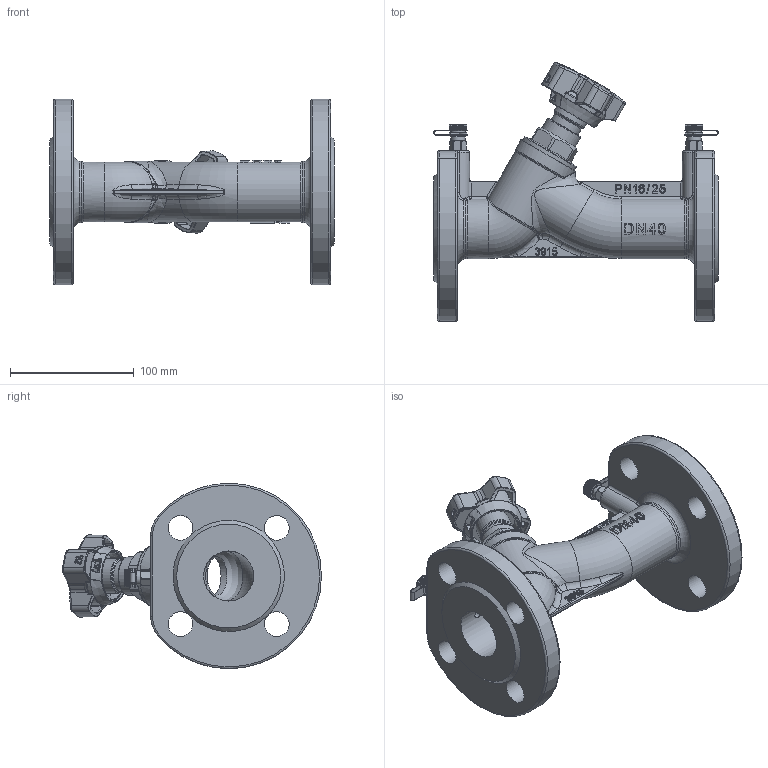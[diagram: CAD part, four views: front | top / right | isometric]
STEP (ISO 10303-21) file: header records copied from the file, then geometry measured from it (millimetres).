
FILE_DESCRIPTION(/* description */ (''),/* implementation_level */ '2;1');
FILE_NAME(/* name */ 'RSV55 DN40.stp',/* time_stamp */ '2024-09-17T14:55:32+07:00',/* author */ ('Eva'),/* organization */ (''),/* preprocessor_version */ 'ST-DEVELOPER v20',/* originating_system */ 'Autodesk Inventor 2025',/* authorisation */ '');
FILE_SCHEMA (('AUTOMOTIVE_DESIGN { 1 0 10303 214 3 1 1 }'));
Products named in the file (16): RSV55 DN40; CM004504001 ·§Ме ¶нВЮЛ№; 20503-40-00-z µ¤ёҐЛ№; 20503-40-00-z µ¤ёҐЛ№_1; 20503-40-00-z µ¤ёҐЛ№_2; 20503-40-00-z µ¤ёҐЛ№_3; 20503-40-00-z µ¤ёҐЛ№_4; 20503-40-00-z µ¤ёҐЛ№_5; ИЎС№ѕЧ; ИЎС№ѕЧ_1; ИЎС№ѕЧГ±; ИЎС№ѕЧЦчМе-30; ЕтХНМе; ПрЅєїЫ; O РНИ¦; O РНИ¦ 8x1
Assembly tree (21 placements, depth 3):
  RSV55 DN40
    CM004504001 ·§Ме ¶нВЮЛ№
    20503-40-00-z µ¤ёҐЛ№
    20503-40-00-z µ¤ёҐЛ№_1
    20503-40-00-z µ¤ёҐЛ№_2
    20503-40-00-z µ¤ёҐЛ№_3
    20503-40-00-z µ¤ёҐЛ№_4
    20503-40-00-z µ¤ёҐЛ№_5
    ИЎС№ѕЧ
      ИЎС№ѕЧГ±
      ИЎС№ѕЧЦчМе-30
      ЕтХНМе
      ПрЅєїЫ
      O РНИ¦
      O РНИ¦ 8x1
    ИЎС№ѕЧ_1
      ИЎС№ѕЧГ±
      ИЎС№ѕЧЦчМе-30
      ЕтХНМе
      ПрЅєїЫ
      O РНИ¦
      O РНИ¦ 8x1
Bounding box: 230 x 209.29 x 150 mm (x, y, z)
Volume: 719187.5 mm3; surface area: 211315.7 mm2
Topology: 19 solids, 19 shells, 5191 faces, 14194 edges, 9259 vertices
Faces by surface type: plane 2673, bspline 1206, cylinder 646, cone 438, torus 198, sphere 30
Full cylindrical faces by diameter (mm): 1.5 x4, 5 x2, 5.9 x1, 6 x3, 7.2 x1, 7.9 x2, 8 x5, 8.9 x10, 8.917 x8, 9 x2, 9.983 x6, 10 x16, 11.5 x12, 11.6 x1, 11.7 x4, 11.8 x2, 12.3 x1, 13.5 x3, 14 x3, 17 x1, 17.3 x1, 17.8 x1, 20 x8, 20.5 x1, 21 x1, 21.3 x1, 22.5 x1, 23.5 x1, 24.6 x1, 25 x1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
Entity records: 205128 total; most frequent: CARTESIAN_POINT 95083, ORIENTED_EDGE 25310, DIRECTION 20258, EDGE_CURVE 12655, VERTEX_POINT 8267, AXIS2_PLACEMENT_3D 7475, LINE 5308, VECTOR 5308
